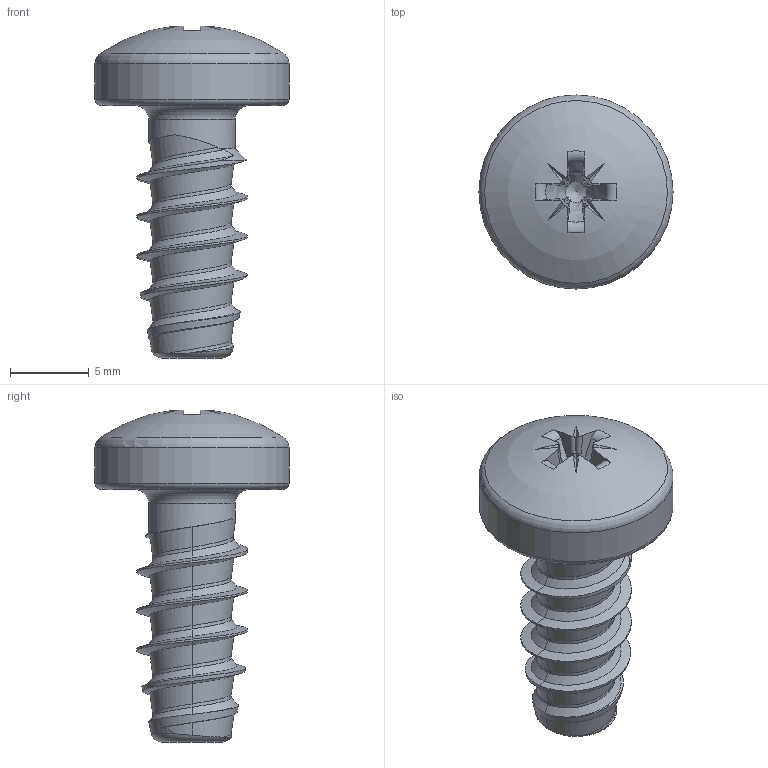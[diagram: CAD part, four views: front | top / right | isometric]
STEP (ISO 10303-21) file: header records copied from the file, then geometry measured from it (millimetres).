
FILE_DESCRIPTION(/* description */ (''),/* implementation_level */ '2;1');
FILE_NAME(/* name */ 'KN6032-STSplus-70x16-Z3.step',/* time_stamp */ '2017-10-10T16:30:43+02:00',/* author */ (''),/* organization */ (''),/* preprocessor_version */ 'ST-DEVELOPER v16',/* originating_system */ 'SIEMENS PLM Software NX 10.0',/* authorisation */ '');
FILE_SCHEMA (('AUTOMOTIVE_DESIGN { 1 0 10303 214 3 1 1 1 }'));
Length unit declared in the file: millimetre
Products named in the file (1): KN6032-STSplus-70x16-Z3
Bounding box: 12.3 x 12.3 x 21.04 mm (x, y, z)
Volume: 844.1 mm3; surface area: 741.5 mm2
Topology: 1 solids, 1 shells, 100 faces, 247 edges, 149 vertices
Faces by surface type: plane 42, bspline 31, cylinder 11, torus 8, cone 7, sphere 1
Full cylindrical faces by diameter (mm): 5.48 x1, 12.3 x1
Entity records: 4844 total; most frequent: CARTESIAN_POINT 2773, ORIENTED_EDGE 466, DIRECTION 337, EDGE_CURVE 233, VERTEX_POINT 144, AXIS2_PLACEMENT_3D 125, EDGE_LOOP 108, ADVANCED_FACE 100
